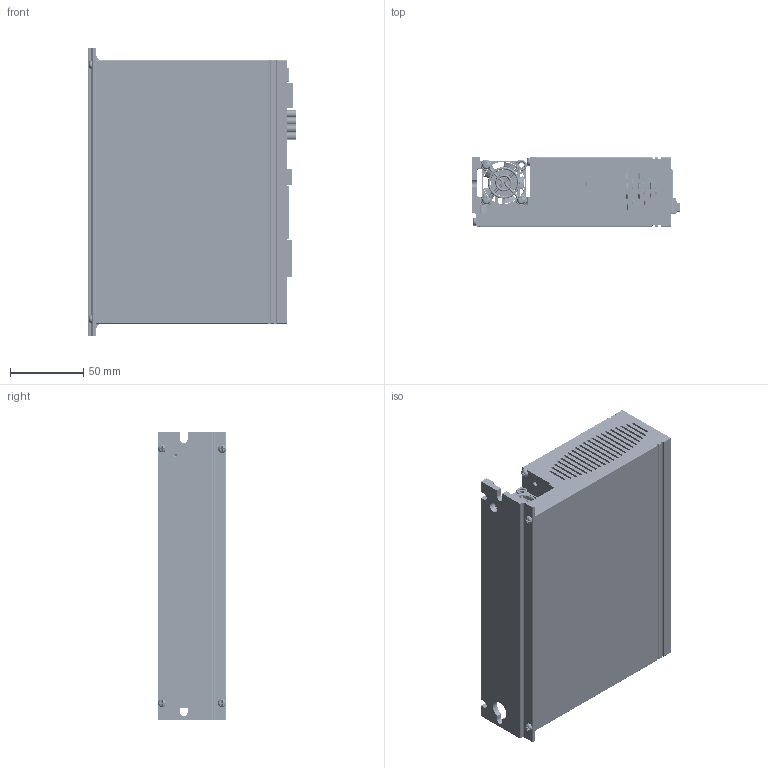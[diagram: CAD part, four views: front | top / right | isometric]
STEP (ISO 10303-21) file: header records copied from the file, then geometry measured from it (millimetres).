
FILE_DESCRIPTION((''),'2;1');
FILE_NAME('SW5_ISD00_ASM','2020-07-28T10:57:54',('Matteo Maccalli'),(''),'CREO PARAMETRIC BY PTC INC, 2019344','CREO PARAMETRIC BY PTC INC, 2019344','');
FILE_SCHEMA(('AUTOMOTIVE_DESIGN { 1 0 10303 214 1 1 1 1 }'));
Products named in the file (418): ISD00_DISSIPATORE-03; AD_00883-03_ISD00; SCATOLA_SW5_D-04; ACC_2E9X9E5; FAN-HOUSE-30X30X10-PROMOCO_FAN-; FAN-30X30X10-PROMOCO_FAN-KDE050; GRIGLIA_30X30; ACC_2E9X19; ISD00_EARTH_FIX-01; AD_01053_ISD00_BLK; BOARD-185; CPP_4X13X9_P10_1_2; CY204_1_ASM; CPP_4X13X9_P10; CY203_1_ASM; CY202_1_ASM; 79202-X02LF; JMP500_ASM; CE_35X30_P10; CE202_ASM; BOARD-38953; USER_LIBRARY-TSSOP-16-1_1_2; IC402_ASM; USER_LIBRARY-ARRAY-1206-4-58410; USER_LIBRARY-ARRAY-1206-4-68119; USER_LIBRARY-ARRAY-1206-4-70352; USER_LIBRARY-ARRAY-1206-4-76785; USER_LIBRARY-ARRAY-1206-4-58388_ASM; RN403_ASM; RN402_ASM; RN401_ASM; RN105_ASM; RN104_ASM; USER_LIBRARY-RES0603-1_1_2; R405_ASM; USER_LIBRARY-TSSOP-16-1; IC401_ASM; IC100_ASM; SW3DPS-0603_SMD_CAPACITOR_1_2; C401_ASM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
Assembly tree (585 placements, depth 8):
  SW5_ISD00_ASM
    ISD00_DISSIPATORE-03
    AD_00883-03_ISD00
    SCATOLA_SW5_D-04
    ACC_2E9X9E5  x4
    FAN-HOUSE-30X30X10-PROMOCO_FAN-
    FAN-30X30X10-PROMOCO_FAN-KDE050
    GRIGLIA_30X30
    ACC_2E9X19  x3
    ISD00_EARTH_FIX-01
    AD_01053_ISD00_BLK
    ASM0001_ASM
      PCB_ASM
        BOARD-185
        CY204_1_ASM
          CPP_4X13X9_P10_1_2
        CY203_1_ASM
          CPP_4X13X9_P10
        CY202_1_ASM
          CPP_4X13X9_P10
        JMP500_ASM
          79202-X02LF  x2
        CE202_ASM
          CE_35X30_P10
        VIS400-38854_ASM
          ISD00VIS-02_ASM
            BOARD-38953
            IC402_ASM
              USER_LIBRARY-TSSOP-16-1_1_2
            RN403_ASM
              USER_LIBRARY-ARRAY-1206-4-58388_ASM
                USER_LIBRARY-ARRAY-1206-4-58410
                USER_LIBRARY-ARRAY-1206-4-68119
                USER_LIBRARY-ARRAY-1206-4-70352
                USER_LIBRARY-ARRAY-1206-4-76785
            RN402_ASM
              USER_LIBRARY-ARRAY-1206-4-58388_ASM
                USER_LIBRARY-ARRAY-1206-4-58410
                USER_LIBRARY-ARRAY-1206-4-68119
                USER_LIBRARY-ARRAY-1206-4-70352
                USER_LIBRARY-ARRAY-1206-4-76785
            RN401_ASM
              USER_LIBRARY-ARRAY-1206-4-58388_ASM
                USER_LIBRARY-ARRAY-1206-4-58410
                USER_LIBRARY-ARRAY-1206-4-68119
                USER_LIBRARY-ARRAY-1206-4-70352
                USER_LIBRARY-ARRAY-1206-4-76785
            RN105_ASM
              USER_LIBRARY-ARRAY-1206-4-58388_ASM
                USER_LIBRARY-ARRAY-1206-4-58410
                USER_LIBRARY-ARRAY-1206-4-68119
                USER_LIBRARY-ARRAY-1206-4-70352
                USER_LIBRARY-ARRAY-1206-4-76785
            RN104_ASM
              USER_LIBRARY-ARRAY-1206-4-58388_ASM
                USER_LIBRARY-ARRAY-1206-4-58410
                USER_LIBRARY-ARRAY-1206-4-68119
                USER_LIBRARY-ARRAY-1206-4-70352
                USER_LIBRARY-ARRAY-1206-4-76785
            R405_ASM
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Bounding box: 142.78 x 47 x 196.6 mm (x, y, z)
Volume: 476928.6 mm3; surface area: 372573.4 mm2
Topology: 358 solids, 365 shells, 22737 faces, 59948 edges, 38037 vertices
Faces by surface type: plane 15480, cylinder 4795, extrusion 1125, sphere 600, bspline 330, cone 248, torus 159
Entity records: 689258 total; most frequent: CARTESIAN_POINT 126158, ORIENTED_EDGE 83318, DIRECTION 78630, PRESENTATION_STYLE_ASSIGNMENT 42126, EDGE_CURVE 41673, STYLED_ITEM 36411, CURVE_STYLE 35836, VECTOR 32256
